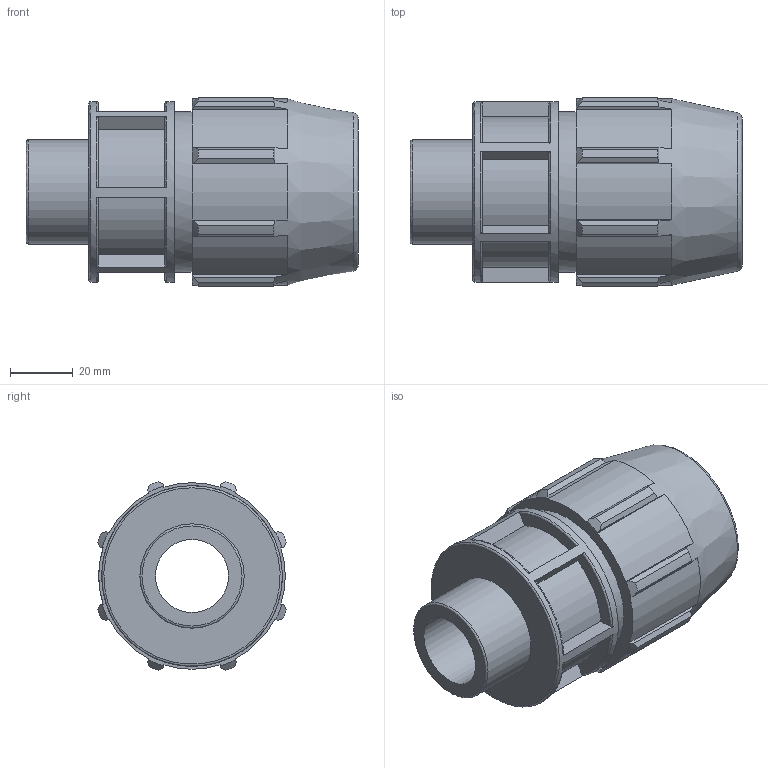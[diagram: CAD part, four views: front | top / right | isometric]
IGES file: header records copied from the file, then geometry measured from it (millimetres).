
Global section: file name: 0702M0T10010.ipt; native system: Autodesk Inventor 2019; preprocessor: unknown; author: KIM; date: 20210826.124438; units: inch
Bounding box: 105.92 x 60.23 x 60.23 mm (x, y, z)
Volume: 141272.3 mm3; surface area: 35910.2 mm2
Topology: 1 solids, 1 shells, 124 faces, 343 edges, 231 vertices
Faces by surface type: plane 63, cylinder 25, revolution 19, cone 17
Full cylindrical faces by diameter (mm): 33.249 x1, 51.206 x1, 57.607 x1
